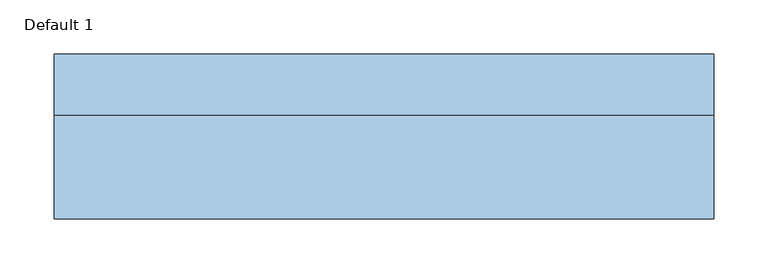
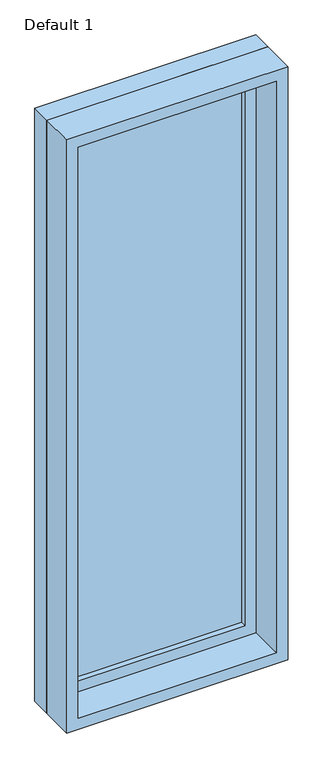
"""IFC4 building model written with IfcOpenShell, lengths in millimetres: window geometry, Planitar-Fixed : Default 1."""

from ifc_helpers import new_model, si_unit, frame, origin, place, context, project, spatial, polyline, outline, extrude, source, transform, mapped, element, save


def default_1_eb8dff72(model_context):
    return source(origin(), model_context, "Body", "SweptSolid", [
        extrude(outline(polyline([(2622.6, -285.8), (933.4, -285.8), (933.4, 285.8), (2622.6, 285.8), (2622.6, -285.8)]), holes=[polyline([(2578.6, -241.8), (2578.6, 241.8), (977.4, 241.8), (977.4, -241.8), (2578.6, -241.8)])]), frame((0.0, 32.5, 0.0), z_axis=(0.0, 1.0, 0.0), x_axis=(0.0, 0.0, 1.0)), (0.0, 0.0, 1.0), 44.0),
        extrude(outline(polyline([(2641.6, -304.8), (914.4, -304.8), (914.4, 304.8), (2641.6, 304.8), (2641.6, -304.8)]), holes=[polyline([(2622.6, -285.8), (2622.6, 285.8), (933.4, 285.8), (933.4, -285.8), (2622.6, -285.8)])]), frame((0.0, 32.5, 0.0), z_axis=(0.0, 1.0, 0.0), x_axis=(0.0, 0.0, 1.0)), (0.0, 0.0, 1.0), 56.7),
        extrude(outline(polyline([(2641.6, -304.8), (914.4, -304.8), (914.4, 304.8), (2641.6, 304.8), (2641.6, -304.8)]), holes=[polyline([(2609.6, -272.8), (2609.6, 272.8), (946.4, 272.8), (946.4, -272.8), (2609.6, -272.8)])]), frame((0.0, -63.2, 0.0), z_axis=(0.0, 1.0, 0.0), x_axis=(0.0, 0.0, 1.0)), (0.0, 0.0, 1.0), 95.7),
        extrude(outline(polyline([(-241.8, 60.5), (241.8, 60.5), (241.8, 48.5), (-241.8, 48.5), (-241.8, 60.5)])), frame((0.0, 0.0, 977.4), z_axis=(0.0, 0.0, 1.0), x_axis=(1.0, 0.0, 0.0)), (0.0, 0.0, 1.0), 1601.2),
    ])


if __name__ == "__main__":
    model = new_model("IFC4")
    model_context = context("Model", 3, world=origin())
    ifc_project = project(units=[si_unit("LENGTHUNIT", "METRE", prefix="MILLI")], contexts=[model_context])
    site = spatial("IfcSite", under=ifc_project)
    building = spatial("IfcBuilding", under=site)
    placement = place(None, origin())
    default_1_shape = default_1_eb8dff72(model_context)
    element("IfcWindow", 1, ObjectType="Planitar-Fixed : Default 1", at=placement, inside=building, context=model_context, shape_type="MappedRepresentation", body=[
        mapped(default_1_shape, transform((0.0, 0.0, 0.0), x_axis=(1.0, 0.0, 0.0), y_axis=(0.0, 1.0, 0.0), z_axis=(0.0, 0.0, 1.0))),
    ])
    save(model, "model.ifc")
